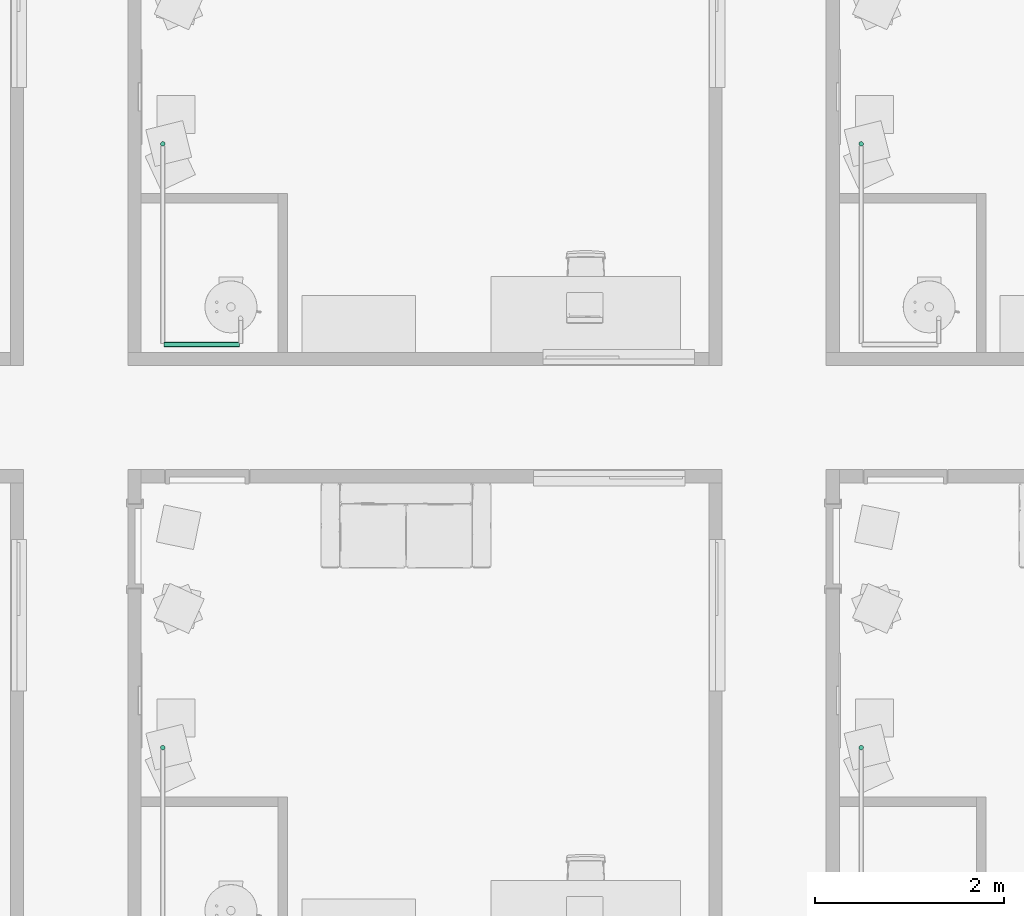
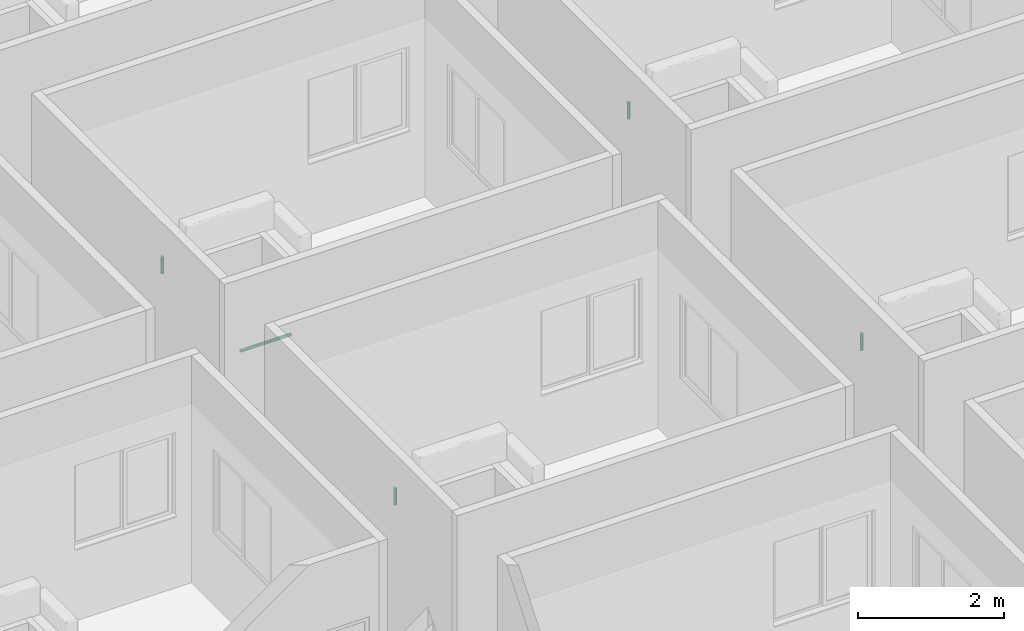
# One storey, part 46 of 72: 5 pipe segments.
"""IFC4 building model written with IfcOpenShell, lengths in centimetres."""

import ifcopenshell
import ifcopenshell.guid

model = None  # the IFC model being written
_history = None  # IfcOwnerHistory: only IFC2X3 demands one
_inside = {}  # id of a spatial element -> (the spatial element, [elements in it])
_under = {}  # id of a project, library or spatial element -> (it, [spatial elements below it])
_declared = {}  # id of a project -> (the project, [libraries it declares])
_typed = {}  # id of a type object -> (the type object, [elements of that type])
_made_of = {}  # id of a material, layer set ... -> (it, [elements and type objects made of it])


def new_model(schema):
    """Start an empty IFC model of exactly this schema.

    Asked for "IFC4X3", IfcOpenShell would pick the latest addendum, in which some entities
    have other attributes; the version numbers below select the first issue.
    IFC2X3 requires an IfcOwnerHistory on every rooted entity: one is made here for all.
    """
    global model, _history
    if schema == "IFC4X3":
        model = ifcopenshell.file(schema_version=(4, 3, 0, 0))
    else:
        model = ifcopenshell.file(schema=schema)
    _inside.clear()
    _under.clear()
    _declared.clear()
    _typed.clear()
    _made_of.clear()
    _history = None
    if model.schema == "IFC2X3":
        org = make("IfcOrganization", Name="unknown")
        user = make(
            "IfcPersonAndOrganization",
            ThePerson=make("IfcPerson", FamilyName="unknown"),
            TheOrganization=org,
        )
        app = make(
            "IfcApplication",
            ApplicationDeveloper=org,
            Version="unknown",
            ApplicationFullName="unknown",
            ApplicationIdentifier="unknown",
        )
        _history = make(
            "IfcOwnerHistory",
            OwningUser=user,
            OwningApplication=app,
            ChangeAction="ADDED",
            CreationDate=0,
        )
    return model


def make(cls, **values):
    """One entity of the class cls with the attributes given. An attribute that is None is left unset."""
    return model.create_entity(
        cls, **{name: value for name, value in values.items() if value is not None}
    )


def entity(cls, *values):
    """Any entity or typed value of the class cls, its attributes in the order of the schema. None: left unset."""
    e = model.create_entity(cls)
    for i, value in enumerate(values):
        if value is not None:
            e[i] = value
    return e


def rooted(cls, **values):
    """An entity with a GlobalId (a new one), such as an element, a storey or a relation."""
    return make(cls, GlobalId=ifcopenshell.guid.new(), OwnerHistory=_history, **values)


def si_unit(unit_type, name, prefix=None):
    """IfcSIUnit, for example si_unit("LENGTHUNIT", "METRE", prefix="MILLI")."""
    return make("IfcSIUnit", UnitType=unit_type, Prefix=prefix, Name=name)


def converted_unit(unit_type, name, factor, base, dimensions=None, offset=None):
    """IfcConversionBasedUnit, such as the inch: factor (a typed value) times the base unit."""
    return make(
        "IfcConversionBasedUnit"
        if offset is None
        else "IfcConversionBasedUnitWithOffset",
        ConversionOffset=offset,
        Dimensions=None
        if dimensions is None
        else entity("IfcDimensionalExponents", *dimensions),
        UnitType=unit_type,
        Name=name,
        ConversionFactor=make(
            "IfcMeasureWithUnit", ValueComponent=factor, UnitComponent=base
        ),
    )


def derived_unit(unit_type, elements):
    """IfcDerivedUnit: a product of units, each with its exponent."""
    return make(
        "IfcDerivedUnit",
        Elements=[
            make("IfcDerivedUnitElement", Unit=unit, Exponent=power)
            for unit, power in elements
        ],
        UnitType=unit_type,
    )


def assignment(units):
    """IfcUnitAssignment: the units of a project."""
    return None if units is None else make("IfcUnitAssignment", Units=units)


def point(xyz):
    """IfcCartesianPoint."""
    return None if xyz is None else make("IfcCartesianPoint", Coordinates=xyz)


def direction(xyz):
    """IfcDirection."""
    return None if xyz is None else make("IfcDirection", DirectionRatios=xyz)


def frame(location, z_axis=None, x_axis=None):
    """IfcAxis2Placement3D, a coordinate frame: its origin and axes. An axis left out is left unset."""
    return make(
        "IfcAxis2Placement3D",
        Location=point(location),
        Axis=direction(z_axis),
        RefDirection=direction(x_axis),
    )


def origin():
    """The frame at (0, 0, 0) with its axes left unset."""
    return frame((0.0, 0.0, 0.0))


def place(relative_to, where):
    """IfcLocalPlacement: puts the frame where relative to a parent placement (None: the world)."""
    return make(
        "IfcLocalPlacement", PlacementRelTo=relative_to, RelativePlacement=where
    )


def context(
    kind, dimensions, precision=None, world=None, true_north=None, identifier=None
):
    """IfcGeometricRepresentationContext, for example the 3D "Model" context."""
    return make(
        "IfcGeometricRepresentationContext",
        ContextIdentifier=identifier,
        ContextType=kind,
        CoordinateSpaceDimension=dimensions,
        Precision=precision,
        WorldCoordinateSystem=world,
        TrueNorth=true_north,
    )


def subcontext(parent, identifier, kind, view, scale=None):
    """IfcGeometricRepresentationSubContext, for example "Body" below "Model"."""
    return make(
        "IfcGeometricRepresentationSubContext",
        ContextIdentifier=identifier,
        ContextType=kind,
        ParentContext=parent,
        TargetScale=scale,
        TargetView=view,
    )


def project(units=None, contexts=None):
    """IfcProject with its units and contexts."""
    return rooted(
        "IfcProject",
        Name="project",
        RepresentationContexts=contexts,
        UnitsInContext=assignment(units),
    )


def spatial(cls, under=None, at=None, **own):
    """A site, building, storey or space (cls), placed at a placement, below another one or the project."""
    s = rooted(cls, ObjectPlacement=at, **own)
    if under is not None:
        _under.setdefault(under.id(), (under, []))[1].append(s)
    return s


def point_list(points):
    """IfcCartesianPointList2D or 3D."""
    cls = (
        "IfcCartesianPointList2D" if len(points[0]) == 2 else "IfcCartesianPointList3D"
    )
    return make(cls, CoordList=points)


def arc(*indices):
    """IfcArcIndex: an arc through three numbered points of an indexed curve."""
    return model.create_entity("IfcArcIndex", indices)


def indexed_curve(points, segments=None, self_intersect=None):
    """IfcIndexedPolyCurve: lines and arcs through numbered points (the first is 1)."""
    return make(
        "IfcIndexedPolyCurve",
        Points=point_list(points),
        Segments=segments,
        SelfIntersect=self_intersect,
    )


def outline(outer, holes=None, kind="AREA"):
    """IfcArbitraryClosedProfileDef: a profile drawn as a closed curve; with holes, ...WithVoids."""
    if holes is None:
        return make("IfcArbitraryClosedProfileDef", ProfileType=kind, OuterCurve=outer)
    return make(
        "IfcArbitraryProfileDefWithVoids",
        ProfileType=kind,
        OuterCurve=outer,
        InnerCurves=holes,
    )


def extrude(swept, where, along, depth):
    """IfcExtrudedAreaSolid: the profile swept, set in the frame where, extruded along a direction by depth."""
    return make(
        "IfcExtrudedAreaSolid",
        SweptArea=swept,
        Position=where,
        ExtrudedDirection=direction(along),
        Depth=depth,
    )


def shape(context_of_items, identifier, shape_type, items):
    """IfcShapeRepresentation: the items that make up one representation, for example the "Body"."""
    return make(
        "IfcShapeRepresentation",
        ContextOfItems=context_of_items,
        RepresentationIdentifier=identifier,
        RepresentationType=shape_type,
        Items=items,
    )


def made_of(thing, what):
    """Note that an element or type object is made of a material, layer set ...; save() writes the relation."""
    if what is not None:
        _made_of.setdefault(what.id(), (what, []))[1].append(thing)
    return thing


def type_object(cls, material=None, **own):
    """A type object (cls), such as IfcWallType, which elements share."""
    return made_of(rooted(cls, **own), material)


def element(
    cls,
    number,
    at=None,
    inside=None,
    cuts=None,
    type_object=None,
    material=None,
    context=None,
    identifier="Body",
    shape_type=None,
    held_by="IfcProductDefinitionShape",
    body=None,
    shapes=None,
    **own,
):
    """One element of the class cls, such as IfcWall. Its Tag is "e" and its number.

    at: its placement. inside: the storey or other place that contains it. cuts: it is an
    opening in that element (IfcRelVoidsElement). A single representation is given by context,
    identifier, shape_type and body (its items); several are given by shapes. held_by: the class
    of the entity that holds the representations. save() writes the other relations.
    """
    e = rooted(cls, Tag="e%d" % number, ObjectPlacement=at, **own)
    if body is not None:
        shapes = [shape(context, identifier, shape_type, body)]
    if shapes is not None:
        e.Representation = make(held_by, Representations=shapes)
    if inside is not None:
        _inside.setdefault(inside.id(), (inside, []))[1].append(e)
    if cuts is not None:
        rooted(
            "IfcRelVoidsElement", RelatingBuildingElement=cuts, RelatedOpeningElement=e
        )
    if type_object is not None:
        _typed.setdefault(type_object.id(), (type_object, []))[1].append(e)
    return made_of(e, material)


def aggregate(whole, parts):
    """IfcRelAggregates: a whole, such as a stair, and the parts it consists of."""
    return rooted("IfcRelAggregates", RelatingObject=whole, RelatedObjects=parts)


def save(model, path):
    """Write the relations noted so far, then the file.

    IfcRelAggregates (storeys below a building ...), IfcRelContainedInSpatialStructure (elements
    in a storey), IfcRelDefinesByType, IfcRelAssociatesMaterial and IfcRelDeclares: one each for
    every whole, place, type object, material and project.
    """
    for whole, parts in _under.values():
        aggregate(whole, parts)
    for where, things in _inside.values():
        rooted(
            "IfcRelContainedInSpatialStructure",
            RelatedElements=things,
            RelatingStructure=where,
        )
    for kind, things in _typed.values():
        rooted("IfcRelDefinesByType", RelatedObjects=things, RelatingType=kind)
    for what, things in _made_of.values():
        rooted("IfcRelAssociatesMaterial", RelatedObjects=things, RelatingMaterial=what)
    for by, libraries in _declared.values():
        rooted("IfcRelDeclares", RelatingContext=by, RelatedDefinitions=libraries)
    model.write(path)


model = new_model("IFC4")

# Units and contexts
model_context = context("Model", 3, precision=0.001, world=origin(), true_north=direction((6.123233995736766e-17, 1.0)))
body_context = subcontext(model_context, "Body", "Model", "MODEL_VIEW")
ifc_project = project(units=[si_unit("LENGTHUNIT", "METRE", prefix="CENTI"), si_unit("AREAUNIT", "SQUARE_METRE"), si_unit("VOLUMEUNIT", "CUBIC_METRE"), derived_unit("THERMALTRANSMITTANCEUNIT", [(si_unit("MASSUNIT", "GRAM", prefix="KILO"), 1), (si_unit("THERMODYNAMICTEMPERATUREUNIT", "KELVIN"), -1), (si_unit("TIMEUNIT", "SECOND"), -3)]), converted_unit("PLANEANGLEUNIT", "DEGREE", entity("IfcPlaneAngleMeasure", 0.017453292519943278), si_unit("PLANEANGLEUNIT", "RADIAN"), dimensions=[0, 0, 0, 0, 0, 0, 0]), derived_unit("MASSDENSITYUNIT", [(si_unit("MASSUNIT", "GRAM", prefix="KILO"), 1), (si_unit("LENGTHUNIT", "METRE"), -3)]), derived_unit("VAPORPERMEABILITYUNIT", [(si_unit("LENGTHUNIT", "METRE"), -1), (si_unit("TIMEUNIT", "SECOND"), 1)]), derived_unit("USERDEFINED", [(si_unit("MASSUNIT", "GRAM", prefix="KILO"), 1), (si_unit("TIMEUNIT", "SECOND"), -3), (si_unit("LENGTHUNIT", "METRE"), 3), (si_unit("ELECTRICCURRENTUNIT", "AMPERE"), -2)]), derived_unit("SPECIFICHEATCAPACITYUNIT", [(si_unit("THERMODYNAMICTEMPERATUREUNIT", "KELVIN"), -1), (si_unit("LENGTHUNIT", "METRE"), 2), (si_unit("TIMEUNIT", "SECOND"), -2)]), derived_unit("THERMALCONDUCTANCEUNIT", [(si_unit("MASSUNIT", "GRAM", prefix="KILO"), 1), (si_unit("THERMODYNAMICTEMPERATUREUNIT", "KELVIN"), -1), (si_unit("TIMEUNIT", "SECOND"), -3), (si_unit("LENGTHUNIT", "METRE"), 1)]), si_unit("PRESSUREUNIT", "PASCAL"), derived_unit("MODULUSOFELASTICITYUNIT", [(si_unit("MASSUNIT", "GRAM", prefix="KILO"), 1), (si_unit("LENGTHUNIT", "METRE"), -1), (si_unit("TIMEUNIT", "SECOND"), -2)]), derived_unit("THERMALEXPANSIONCOEFFICIENTUNIT", [(si_unit("THERMODYNAMICTEMPERATUREUNIT", "KELVIN"), -1)])], contexts=[model_context])

# Site, building, storey
site_placement = place(None, origin())
site = spatial("IfcSite", under=ifc_project, at=site_placement, Name="Default", CompositionType="ELEMENT")
building_placement = place(site_placement, origin())
building = spatial("IfcBuilding", under=site, at=building_placement, Name="IDS Escape Game Building", CompositionType="ELEMENT")
storey_placement = place(building_placement, frame((0.0, 0.0, 800.0)))
storey = spatial("IfcBuildingStorey", under=building, at=storey_placement, Name="02_Second Floor", CompositionType="ELEMENT", Elevation=800.0)

# Pipe segments
pipe_segment_type = type_object("IfcPipeSegmentType", Name="Pipe Types:Piping Aluminum", PredefinedType="NOTDEFINED")
pipe_segment_1_placement = place(storey_placement, origin())
element("IfcPipeSegment", 1, at=pipe_segment_1_placement, inside=storey, type_object=pipe_segment_type, Name="Pipe Types:Piping Aluminum", ObjectType="Pipe Types:Piping Aluminum", PredefinedType="NOTDEFINED", context=body_context, shape_type="SweptSolid", body=[
    extrude(outline(indexed_curve([(2.412999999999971, 0.0), (1.7062486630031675, 1.7062486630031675), (0.0, 2.412999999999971), (-1.7062486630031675, 1.7062486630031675), (-2.412999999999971, 0.0), (-1.7062486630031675, -1.7062486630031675), (0.0, -2.412999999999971), (1.7062486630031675, -1.7062486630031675)], segments=[arc(1, 2, 3), arc(3, 4, 5), arc(5, 6, 7), arc(7, 8, 1)], self_intersect=False)), frame((1506.0467168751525, 871.2648279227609, 244.09999999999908), z_axis=(0.0, 0.0, 1.0), x_axis=(-1.0, 0.0, 0.0)), (0.0, 0.0, 1.0), 27.90000000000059),
])
pipe_segment_2_placement = place(storey_placement, origin())
element("IfcPipeSegment", 2, at=pipe_segment_2_placement, inside=storey, type_object=pipe_segment_type, Name="Pipe Types:Piping Aluminum", ObjectType="Pipe Types:Piping Aluminum", PredefinedType="NOTDEFINED", context=body_context, shape_type="SweptSolid", body=[
    extrude(outline(indexed_curve([(2.412999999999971, 0.0), (1.7062486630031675, 1.7062486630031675), (0.0, 2.412999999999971), (-1.7062486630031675, 1.7062486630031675), (-2.412999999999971, 0.0), (-1.7062486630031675, -1.7062486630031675), (0.0, -2.412999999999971), (1.7062486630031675, -1.7062486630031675)], segments=[arc(1, 2, 3), arc(3, 4, 5), arc(5, 6, 7), arc(7, 8, 1)], self_intersect=False)), frame((2244.046716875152, 871.2648279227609, 244.09999999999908), z_axis=(0.0, 0.0, 1.0), x_axis=(-1.0, 0.0, 0.0)), (0.0, 0.0, 1.0), 27.90000000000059),
])
pipe_segment_3_placement = place(storey_placement, origin())
element("IfcPipeSegment", 3, at=pipe_segment_3_placement, inside=storey, type_object=pipe_segment_type, Name="Pipe Types:Piping Aluminum", ObjectType="Pipe Types:Piping Aluminum", PredefinedType="NOTDEFINED", context=body_context, shape_type="SweptSolid", body=[
    extrude(outline(indexed_curve([(2.412999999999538, -2.165734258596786e-13), (1.7062486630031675, 1.7062486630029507), (4.331468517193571e-13, 2.4130000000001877), (-1.706248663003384, 1.7062486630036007), (-2.4130000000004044, -2.165734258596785e-13), (-1.7062486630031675, -1.706248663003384), (4.3314685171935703e-13, -2.4129999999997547), (1.7062486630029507, -1.7062486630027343)], segments=[arc(1, 2, 3), arc(3, 4, 5), arc(5, 6, 7), arc(7, 8, 1)], self_intersect=False)), frame((1507.1467168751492, 1297.2648279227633, 242.0), z_axis=(1.0, 0.0, 0.0), x_axis=(0.0, 1.0, 0.0)), (0.0, 0.0, 1.0), 79.90328312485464),
])
pipe_segment_4_placement = place(storey_placement, origin())
element("IfcPipeSegment", 4, at=pipe_segment_4_placement, inside=storey, type_object=pipe_segment_type, Name="Pipe Types:Piping Aluminum", ObjectType="Pipe Types:Piping Aluminum", PredefinedType="NOTDEFINED", context=body_context, shape_type="SweptSolid", body=[
    extrude(outline(indexed_curve([(2.412999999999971, 0.0), (1.7062486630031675, 1.7062486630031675), (0.0, 2.412999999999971), (-1.7062486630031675, 1.7062486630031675), (-2.412999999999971, 0.0), (-1.7062486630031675, -1.7062486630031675), (0.0, -2.412999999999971), (1.7062486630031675, -1.7062486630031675)], segments=[arc(1, 2, 3), arc(3, 4, 5), arc(5, 6, 7), arc(7, 8, 1)], self_intersect=False)), frame((1506.0467168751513, 1509.2648279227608, 244.09999999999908), z_axis=(0.0, 0.0, 1.0), x_axis=(-1.0, 0.0, 0.0)), (0.0, 0.0, 1.0), 27.90000000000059),
])
pipe_segment_5_placement = place(storey_placement, origin())
element("IfcPipeSegment", 5, at=pipe_segment_5_placement, inside=storey, type_object=pipe_segment_type, Name="Pipe Types:Piping Aluminum", ObjectType="Pipe Types:Piping Aluminum", PredefinedType="NOTDEFINED", context=body_context, shape_type="SweptSolid", body=[
    extrude(outline(indexed_curve([(2.412999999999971, 0.0), (1.7062486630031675, 1.7062486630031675), (0.0, 2.412999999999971), (-1.7062486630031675, 1.7062486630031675), (-2.412999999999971, 0.0), (-1.7062486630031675, -1.7062486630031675), (0.0, -2.412999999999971), (1.7062486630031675, -1.7062486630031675)], segments=[arc(1, 2, 3), arc(3, 4, 5), arc(5, 6, 7), arc(7, 8, 1)], self_intersect=False)), frame((2244.046716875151, 1509.2648279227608, 244.09999999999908), z_axis=(0.0, 0.0, 1.0), x_axis=(-1.0, 0.0, 0.0)), (0.0, 0.0, 1.0), 27.90000000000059),
])

save(model, "model.ifc")
